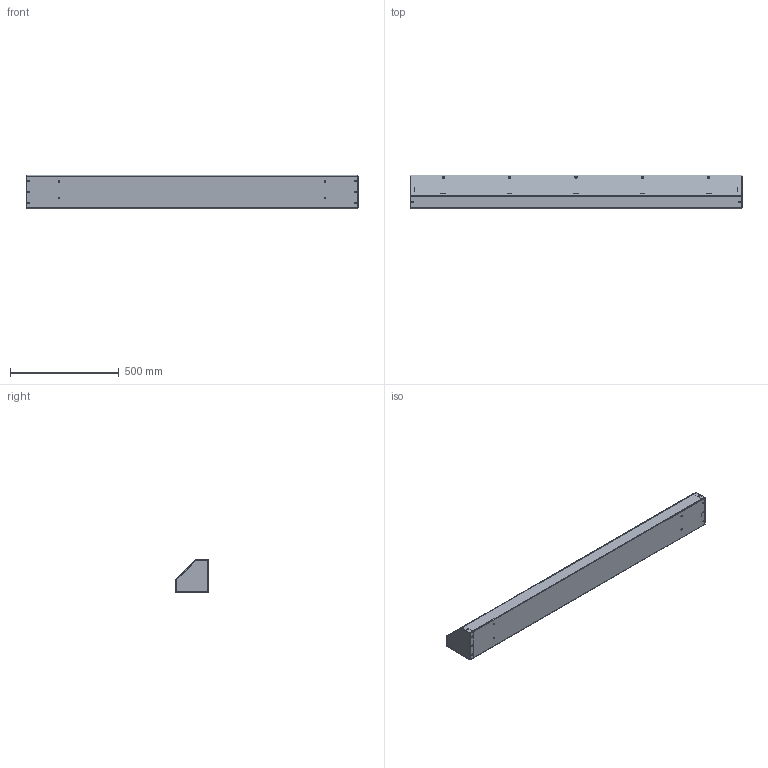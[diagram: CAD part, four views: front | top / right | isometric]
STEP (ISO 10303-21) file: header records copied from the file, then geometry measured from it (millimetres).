
FILE_DESCRIPTION (( 'STEP AP203' ), '1' );
FILE_NAME ('at6660.STEP', '2017-10-03T17:36:04', ( '' ), ( '' ), 'SwSTEP 2.0', 'SolidWorks 2014', '' );
FILE_SCHEMA (( 'CONFIG_CONTROL_DESIGN' ));
Length unit declared in the file: inch
Products named in the file (7): 89159121; 16111002_INSTALLED .144 THICKNESS; 89159150; 89159129; 87780048; at6660; 89159106
Assembly tree (22 placements, depth 3):
  at6660
    89159150
      89159106
      89159121  x2
      16111002_INSTALLED .144 THICKNESS  x16
    89159129
    87780048
Bounding box: 1524 x 154.23 x 154.23 mm (x, y, z)
Volume: 1307616.9 mm3; surface area: 1895020.9 mm2
Topology: 21 solids, 21 shells, 859 faces, 2050 edges, 1244 vertices
Faces by surface type: cylinder 332, plane 331, cone 96, bspline 80, torus 20
Entity records: 16273 total; most frequent: CARTESIAN_POINT 3037, DIRECTION 2566, ORIENTED_EDGE 2478, EDGE_CURVE 1239, AXIS2_PLACEMENT_3D 882, LINE 802, VECTOR 802, VERTEX_POINT 783
